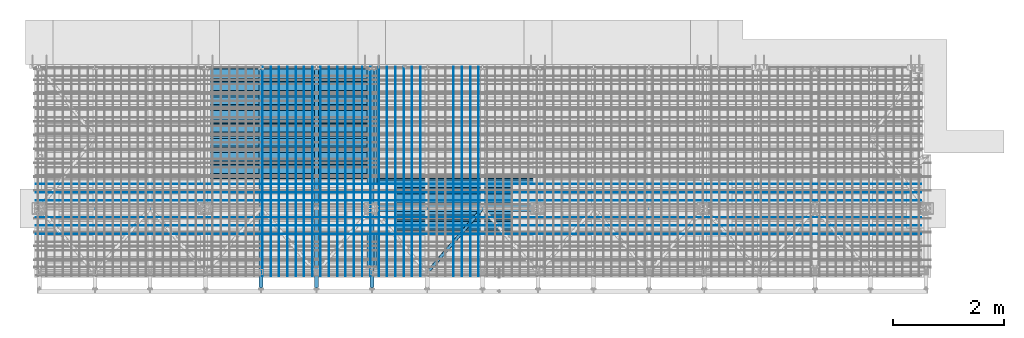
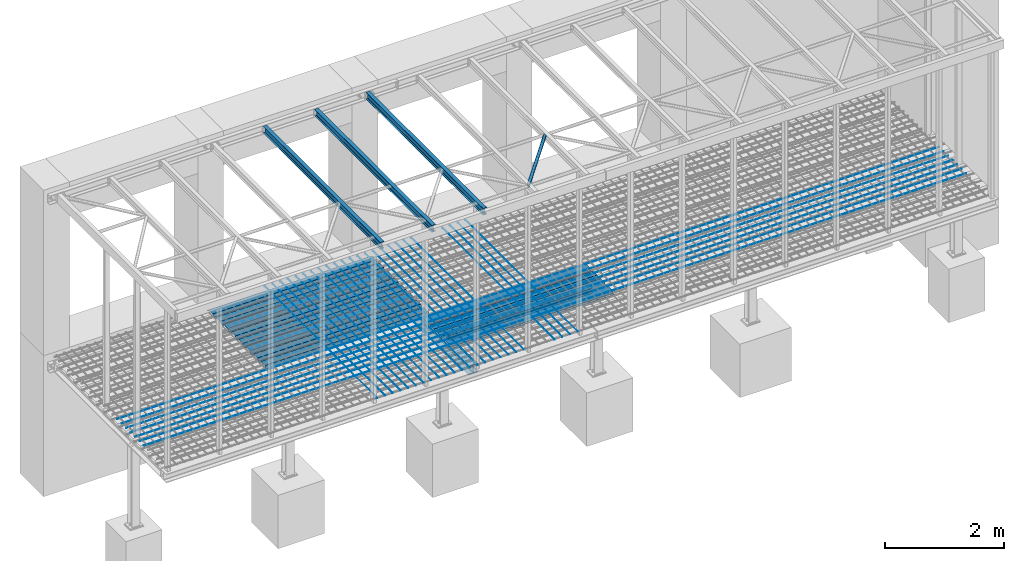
# One storey, part 5 of 26: 40 beams, 40 elements without a shape of their own.
"""IFC2X3 building model written with IfcOpenShell, lengths in millimetres."""

from ifc_helpers import new_model, si_unit, frame, origin_with_axes, origin_2d_with_axis, place, context, subcontext, project, spatial, polyline, circle, hollow_circle, i_section, outline, extrude, boolean, halfspace, material, type_object, element, aggregate, save


model = new_model("IFC2X3")

# Units and contexts
model_context = context("Model", 3, precision=1e-05, world=origin_with_axes())
body_context = subcontext(model_context, "Body", "Model", "MODEL_VIEW")
ifc_project = project(units=[si_unit("LENGTHUNIT", "METRE", prefix="MILLI"), si_unit("AREAUNIT", "SQUARE_METRE"), si_unit("VOLUMEUNIT", "CUBIC_METRE"), si_unit("MASSUNIT", "GRAM", prefix="KILO"), si_unit("TIMEUNIT", "SECOND"), si_unit("PLANEANGLEUNIT", "RADIAN"), si_unit("SOLIDANGLEUNIT", "STERADIAN"), si_unit("THERMODYNAMICTEMPERATUREUNIT", "DEGREE_CELSIUS"), si_unit("LUMINOUSINTENSITYUNIT", "LUMEN")], contexts=[model_context])

# Site, building, storey
site_placement = place(None, origin_with_axes())
site = spatial("IfcSite", under=ifc_project, at=site_placement, Name="Undefined", CompositionType="ELEMENT")
building_placement = place(site_placement, origin_with_axes())
building = spatial("IfcBuilding", under=site, at=building_placement, Name="Undefined", CompositionType="ELEMENT")
storey_placement = place(building_placement, origin_with_axes())
storey = spatial("IfcBuildingStorey", under=building, at=storey_placement, Name="Undefined", CompositionType="ELEMENT", Elevation=0.0)

# Assembly, beam
assembly_1_placement = place(storey_placement, origin_with_axes())
assembly_1 = element("IfcElementAssembly", 1, at=assembly_1_placement, inside=storey, Name="Steel Assembly", AssemblyPlace="NOTDEFINED", PredefinedType="RIGID_FRAME")
ifc_material = material(Name="STEEL/S235JR")
beam_type_1 = type_object("IfcBeamType", Name="D8", PredefinedType="NOTDEFINED")
beam_1_placement = place(assembly_1_placement, frame((7977.5, 3814.99758213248, -49.0), z_axis=(0.0, 0.0, 1.0), x_axis=(0.0, -1.0, 0.0)))
beam_1 = element("IfcBeam", 2, at=beam_1_placement, type_object=beam_type_1, material=ifc_material, Name="VÝSTUZ PLECHODOSKA", ObjectType="D8", context=body_context, shape_type="SweptSolid", body=[
    extrude(circle(Radius=4.0, at=origin_2d_with_axis()), frame((3779.99758213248, 0.0, 0.0), z_axis=(-1.0, 0.0, 0.0), x_axis=(0.0, -1.0, 0.0)), (0.0, 0.0, 1.0), 3780.0),
])
aggregate(assembly_1, [beam_1])

assembly_2_placement = place(storey_placement, origin_with_axes())
assembly_2 = element("IfcElementAssembly", 3, at=assembly_2_placement, inside=storey, Name="Steel Assembly", AssemblyPlace="NOTDEFINED", PredefinedType="RIGID_FRAME")
beam_2_placement = place(assembly_2_placement, frame((7827.5, 3814.99758213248, -49.0), z_axis=(0.0, 0.0, 1.0), x_axis=(0.0, -1.0, 0.0)))
beam_2 = element("IfcBeam", 4, at=beam_2_placement, type_object=beam_type_1, material=ifc_material, Name="VÝSTUZ PLECHODOSKA", ObjectType="D8", context=body_context, shape_type="SweptSolid", body=[
    extrude(circle(Radius=4.0, at=origin_2d_with_axis()), frame((3779.99758213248, 0.0, 0.0), z_axis=(-1.0, 0.0, 0.0), x_axis=(0.0, -1.0, 0.0)), (0.0, 0.0, 1.0), 3780.0),
])
aggregate(assembly_2, [beam_2])

assembly_3_placement = place(storey_placement, origin_with_axes())
assembly_3 = element("IfcElementAssembly", 5, at=assembly_3_placement, inside=storey, Name="Steel Assembly", AssemblyPlace="NOTDEFINED", PredefinedType="RIGID_FRAME")
beam_3_placement = place(assembly_3_placement, frame((7677.5, 3814.99758213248, -49.0), z_axis=(0.0, 0.0, 1.0), x_axis=(0.0, -1.0, 0.0)))
beam_3 = element("IfcBeam", 6, at=beam_3_placement, type_object=beam_type_1, material=ifc_material, Name="VÝSTUZ PLECHODOSKA", ObjectType="D8", context=body_context, shape_type="SweptSolid", body=[
    extrude(circle(Radius=4.0, at=origin_2d_with_axis()), frame((3779.99758213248, 0.0, 0.0), z_axis=(-1.0, 0.0, 0.0), x_axis=(0.0, -1.0, 0.0)), (0.0, 0.0, 1.0), 3780.0),
])
aggregate(assembly_3, [beam_3])

assembly_4_placement = place(storey_placement, origin_with_axes())
assembly_4 = element("IfcElementAssembly", 7, at=assembly_4_placement, inside=storey, Name="Steel Assembly", AssemblyPlace="NOTDEFINED", PredefinedType="RIGID_FRAME")
beam_4_placement = place(assembly_4_placement, frame((7527.5, 3814.99758213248, -49.0), z_axis=(0.0, 0.0, 1.0), x_axis=(0.0, -1.0, 0.0)))
beam_4 = element("IfcBeam", 8, at=beam_4_placement, type_object=beam_type_1, material=ifc_material, Name="VÝSTUZ PLECHODOSKA", ObjectType="D8", context=body_context, shape_type="SweptSolid", body=[
    extrude(circle(Radius=4.0, at=origin_2d_with_axis()), frame((3779.99758213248, 0.0, 0.0), z_axis=(-1.0, 0.0, 0.0), x_axis=(0.0, -1.0, 0.0)), (0.0, 0.0, 1.0), 3780.0),
])
aggregate(assembly_4, [beam_4])

assembly_5_placement = place(storey_placement, origin_with_axes())
assembly_5 = element("IfcElementAssembly", 9, at=assembly_5_placement, inside=storey, Name="Steel Assembly", AssemblyPlace="NOTDEFINED", PredefinedType="RIGID_FRAME")
beam_5_placement = place(assembly_5_placement, frame((6927.5, 3814.99758213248, -49.0), z_axis=(0.0, 0.0, 1.0), x_axis=(0.0, -1.0, 0.0)))
beam_5 = element("IfcBeam", 10, at=beam_5_placement, type_object=beam_type_1, material=ifc_material, Name="VÝSTUZ PLECHODOSKA", ObjectType="D8", context=body_context, shape_type="SweptSolid", body=[
    extrude(circle(Radius=4.0, at=origin_2d_with_axis()), frame((3779.99758213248, 0.0, 0.0), z_axis=(-1.0, 0.0, 0.0), x_axis=(0.0, -1.0, 0.0)), (0.0, 0.0, 1.0), 3780.0),
])
aggregate(assembly_5, [beam_5])

assembly_6_placement = place(storey_placement, origin_with_axes())
assembly_6 = element("IfcElementAssembly", 11, at=assembly_6_placement, inside=storey, Name="Steel Assembly", AssemblyPlace="NOTDEFINED", PredefinedType="RIGID_FRAME")
beam_6_placement = place(assembly_6_placement, frame((6777.5, 3814.99758213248, -49.0), z_axis=(0.0, 0.0, 1.0), x_axis=(0.0, -1.0, 0.0)))
beam_6 = element("IfcBeam", 12, at=beam_6_placement, type_object=beam_type_1, material=ifc_material, Name="VÝSTUZ PLECHODOSKA", ObjectType="D8", context=body_context, shape_type="SweptSolid", body=[
    extrude(circle(Radius=4.0, at=origin_2d_with_axis()), frame((3779.99758213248, 0.0, 0.0), z_axis=(-1.0, 0.0, 0.0), x_axis=(0.0, -1.0, 0.0)), (0.0, 0.0, 1.0), 3780.0),
])
aggregate(assembly_6, [beam_6])

assembly_7_placement = place(storey_placement, origin_with_axes())
assembly_7 = element("IfcElementAssembly", 13, at=assembly_7_placement, inside=storey, Name="Steel Assembly", AssemblyPlace="NOTDEFINED", PredefinedType="RIGID_FRAME")
beam_7_placement = place(assembly_7_placement, frame((6627.5, 3814.99758213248, -49.0), z_axis=(0.0, 0.0, 1.0), x_axis=(0.0, -1.0, 0.0)))
beam_7 = element("IfcBeam", 14, at=beam_7_placement, type_object=beam_type_1, material=ifc_material, Name="VÝSTUZ PLECHODOSKA", ObjectType="D8", context=body_context, shape_type="SweptSolid", body=[
    extrude(circle(Radius=4.0, at=origin_2d_with_axis()), frame((3779.99758213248, 0.0, 0.0), z_axis=(-1.0, 0.0, 0.0), x_axis=(0.0, -1.0, 0.0)), (0.0, 0.0, 1.0), 3780.0),
])
aggregate(assembly_7, [beam_7])

assembly_8_placement = place(storey_placement, origin_with_axes())
assembly_8 = element("IfcElementAssembly", 15, at=assembly_8_placement, inside=storey, Name="Steel Assembly", AssemblyPlace="NOTDEFINED", PredefinedType="RIGID_FRAME")
beam_8_placement = place(assembly_8_placement, frame((6477.5, 3814.99758213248, -49.0), z_axis=(0.0, 0.0, 1.0), x_axis=(0.0, -1.0, 0.0)))
beam_8 = element("IfcBeam", 16, at=beam_8_placement, type_object=beam_type_1, material=ifc_material, Name="VÝSTUZ PLECHODOSKA", ObjectType="D8", context=body_context, shape_type="SweptSolid", body=[
    extrude(circle(Radius=4.0, at=origin_2d_with_axis()), frame((3779.99758213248, 0.0, 0.0), z_axis=(-1.0, 0.0, 0.0), x_axis=(0.0, -1.0, 0.0)), (0.0, 0.0, 1.0), 3780.0),
])
aggregate(assembly_8, [beam_8])

assembly_9_placement = place(storey_placement, origin_with_axes())
assembly_9 = element("IfcElementAssembly", 17, at=assembly_9_placement, inside=storey, Name="Steel Assembly", AssemblyPlace="NOTDEFINED", PredefinedType="RIGID_FRAME")
beam_9_placement = place(assembly_9_placement, frame((6327.5, 3814.99758213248, -49.0), z_axis=(0.0, 0.0, 1.0), x_axis=(0.0, -1.0, 0.0)))
beam_9 = element("IfcBeam", 18, at=beam_9_placement, type_object=beam_type_1, material=ifc_material, Name="VÝSTUZ PLECHODOSKA", ObjectType="D8", context=body_context, shape_type="SweptSolid", body=[
    extrude(circle(Radius=4.0, at=origin_2d_with_axis()), frame((3779.99758213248, 0.0, 0.0), z_axis=(-1.0, 0.0, 0.0), x_axis=(0.0, -1.0, 0.0)), (0.0, 0.0, 1.0), 3780.0),
])
aggregate(assembly_9, [beam_9])

assembly_10_placement = place(storey_placement, origin_with_axes())
assembly_10 = element("IfcElementAssembly", 19, at=assembly_10_placement, inside=storey, Name="Steel Assembly", AssemblyPlace="NOTDEFINED", PredefinedType="RIGID_FRAME")
beam_10_placement = place(assembly_10_placement, frame((6177.5, 3814.99758213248, -49.0), z_axis=(0.0, 0.0, 1.0), x_axis=(0.0, -1.0, 0.0)))
beam_10 = element("IfcBeam", 20, at=beam_10_placement, type_object=beam_type_1, material=ifc_material, Name="VÝSTUZ PLECHODOSKA", ObjectType="D8", context=body_context, shape_type="SweptSolid", body=[
    extrude(circle(Radius=4.0, at=origin_2d_with_axis()), frame((3779.99758213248, 0.0, 0.0), z_axis=(-1.0, 0.0, 0.0), x_axis=(0.0, -1.0, 0.0)), (0.0, 0.0, 1.0), 3780.0),
])
aggregate(assembly_10, [beam_10])

assembly_11_placement = place(storey_placement, origin_with_axes())
assembly_11 = element("IfcElementAssembly", 21, at=assembly_11_placement, inside=storey, Name="Steel Assembly", AssemblyPlace="NOTDEFINED", PredefinedType="RIGID_FRAME")
beam_11_placement = place(assembly_11_placement, frame((6027.5, 3814.99758213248, -49.0), z_axis=(0.0, 0.0, 1.0), x_axis=(0.0, -1.0, 0.0)))
beam_11 = element("IfcBeam", 22, at=beam_11_placement, type_object=beam_type_1, material=ifc_material, Name="VÝSTUZ PLECHODOSKA", ObjectType="D8", context=body_context, shape_type="SweptSolid", body=[
    extrude(circle(Radius=4.0, at=origin_2d_with_axis()), frame((3779.99758213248, 0.0, 0.0), z_axis=(-1.0, 0.0, 0.0), x_axis=(0.0, -1.0, 0.0)), (0.0, 0.0, 1.0), 3780.0),
])
aggregate(assembly_11, [beam_11])

assembly_12_placement = place(storey_placement, origin_with_axes())
assembly_12 = element("IfcElementAssembly", 23, at=assembly_12_placement, inside=storey, Name="Steel Assembly", AssemblyPlace="NOTDEFINED", PredefinedType="RIGID_FRAME")
beam_12_placement = place(assembly_12_placement, frame((5877.5, 3814.99758213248, -49.0), z_axis=(0.0, 0.0, 1.0), x_axis=(0.0, -1.0, 0.0)))
beam_12 = element("IfcBeam", 24, at=beam_12_placement, type_object=beam_type_1, material=ifc_material, Name="VÝSTUZ PLECHODOSKA", ObjectType="D8", context=body_context, shape_type="SweptSolid", body=[
    extrude(circle(Radius=4.0, at=origin_2d_with_axis()), frame((3779.99758213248, 0.0, 0.0), z_axis=(-1.0, 0.0, 0.0), x_axis=(0.0, -1.0, 0.0)), (0.0, 0.0, 1.0), 3780.0),
])
aggregate(assembly_12, [beam_12])

assembly_13_placement = place(storey_placement, origin_with_axes())
assembly_13 = element("IfcElementAssembly", 25, at=assembly_13_placement, inside=storey, Name="Steel Assembly", AssemblyPlace="NOTDEFINED", PredefinedType="RIGID_FRAME")
beam_13_placement = place(assembly_13_placement, frame((5727.5, 3814.99758213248, -49.0), z_axis=(0.0, 0.0, 1.0), x_axis=(0.0, -1.0, 0.0)))
beam_13 = element("IfcBeam", 26, at=beam_13_placement, type_object=beam_type_1, material=ifc_material, Name="VÝSTUZ PLECHODOSKA", ObjectType="D8", context=body_context, shape_type="SweptSolid", body=[
    extrude(circle(Radius=4.0, at=origin_2d_with_axis()), frame((3779.99758213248, 0.0, 0.0), z_axis=(-1.0, 0.0, 0.0), x_axis=(0.0, -1.0, 0.0)), (0.0, 0.0, 1.0), 3780.0),
])
aggregate(assembly_13, [beam_13])

assembly_14_placement = place(storey_placement, origin_with_axes())
assembly_14 = element("IfcElementAssembly", 27, at=assembly_14_placement, inside=storey, Name="Steel Assembly", AssemblyPlace="NOTDEFINED", PredefinedType="RIGID_FRAME")
beam_14_placement = place(assembly_14_placement, frame((5577.5, 3814.99758213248, -49.0), z_axis=(0.0, 0.0, 1.0), x_axis=(0.0, -1.0, 0.0)))
beam_14 = element("IfcBeam", 28, at=beam_14_placement, type_object=beam_type_1, material=ifc_material, Name="VÝSTUZ PLECHODOSKA", ObjectType="D8", context=body_context, shape_type="SweptSolid", body=[
    extrude(circle(Radius=4.0, at=origin_2d_with_axis()), frame((3779.99758213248, 0.0, 0.0), z_axis=(-1.0, 0.0, 0.0), x_axis=(0.0, -1.0, 0.0)), (0.0, 0.0, 1.0), 3780.0),
])
aggregate(assembly_14, [beam_14])

assembly_15_placement = place(storey_placement, origin_with_axes())
assembly_15 = element("IfcElementAssembly", 29, at=assembly_15_placement, inside=storey, Name="Steel Assembly", AssemblyPlace="NOTDEFINED", PredefinedType="RIGID_FRAME")
beam_15_placement = place(assembly_15_placement, frame((5427.5, 3814.99758213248, -49.0), z_axis=(0.0, 0.0, 1.0), x_axis=(0.0, -1.0, 0.0)))
beam_15 = element("IfcBeam", 30, at=beam_15_placement, type_object=beam_type_1, material=ifc_material, Name="VÝSTUZ PLECHODOSKA", ObjectType="D8", context=body_context, shape_type="SweptSolid", body=[
    extrude(circle(Radius=4.0, at=origin_2d_with_axis()), frame((3779.99758213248, 0.0, 0.0), z_axis=(-1.0, 0.0, 0.0), x_axis=(0.0, -1.0, 0.0)), (0.0, 0.0, 1.0), 3780.0),
])
aggregate(assembly_15, [beam_15])

assembly_16_placement = place(storey_placement, origin_with_axes())
assembly_16 = element("IfcElementAssembly", 31, at=assembly_16_placement, inside=storey, Name="Steel Assembly", AssemblyPlace="NOTDEFINED", PredefinedType="RIGID_FRAME")
beam_16_placement = place(assembly_16_placement, frame((5277.5, 3814.99758213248, -49.0), z_axis=(0.0, 0.0, 1.0), x_axis=(0.0, -1.0, 0.0)))
beam_16 = element("IfcBeam", 32, at=beam_16_placement, type_object=beam_type_1, material=ifc_material, Name="VÝSTUZ PLECHODOSKA", ObjectType="D8", context=body_context, shape_type="SweptSolid", body=[
    extrude(circle(Radius=4.0, at=origin_2d_with_axis()), frame((3779.99758213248, 0.0, 0.0), z_axis=(-1.0, 0.0, 0.0), x_axis=(0.0, -1.0, 0.0)), (0.0, 0.0, 1.0), 3780.0),
])
aggregate(assembly_16, [beam_16])

assembly_17_placement = place(storey_placement, origin_with_axes())
assembly_17 = element("IfcElementAssembly", 33, at=assembly_17_placement, inside=storey, Name="Steel Assembly", AssemblyPlace="NOTDEFINED", PredefinedType="RIGID_FRAME")
beam_17_placement = place(assembly_17_placement, frame((5127.5, 3814.99758213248, -49.0), z_axis=(0.0, 0.0, 1.0), x_axis=(0.0, -1.0, 0.0)))
beam_17 = element("IfcBeam", 34, at=beam_17_placement, type_object=beam_type_1, material=ifc_material, Name="VÝSTUZ PLECHODOSKA", ObjectType="D8", context=body_context, shape_type="SweptSolid", body=[
    extrude(circle(Radius=4.0, at=origin_2d_with_axis()), frame((3779.99758213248, 0.0, 0.0), z_axis=(-1.0, 0.0, 0.0), x_axis=(0.0, -1.0, 0.0)), (0.0, 0.0, 1.0), 3780.0),
])
aggregate(assembly_17, [beam_17])

assembly_18_placement = place(storey_placement, origin_with_axes())
assembly_18 = element("IfcElementAssembly", 35, at=assembly_18_placement, inside=storey, Name="Steel Assembly", AssemblyPlace="NOTDEFINED", PredefinedType="RIGID_FRAME")
beam_18_placement = place(assembly_18_placement, frame((4977.5, 3814.99758213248, -49.0), z_axis=(0.0, 0.0, 1.0), x_axis=(0.0, -1.0, 0.0)))
beam_18 = element("IfcBeam", 36, at=beam_18_placement, type_object=beam_type_1, material=ifc_material, Name="VÝSTUZ PLECHODOSKA", ObjectType="D8", context=body_context, shape_type="SweptSolid", body=[
    extrude(circle(Radius=4.0, at=origin_2d_with_axis()), frame((3779.99758213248, 0.0, 0.0), z_axis=(-1.0, 0.0, 0.0), x_axis=(0.0, -1.0, 0.0)), (0.0, 0.0, 1.0), 3780.0),
])
aggregate(assembly_18, [beam_18])

assembly_19_placement = place(storey_placement, origin_with_axes())
assembly_19 = element("IfcElementAssembly", 37, at=assembly_19_placement, inside=storey, Name="Steel Assembly", AssemblyPlace="NOTDEFINED", PredefinedType="RIGID_FRAME")
beam_19_placement = place(assembly_19_placement, frame((4827.5, 3814.99758213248, -49.0), z_axis=(0.0, 0.0, 1.0), x_axis=(0.0, -1.0, 0.0)))
beam_19 = element("IfcBeam", 38, at=beam_19_placement, type_object=beam_type_1, material=ifc_material, Name="VÝSTUZ PLECHODOSKA", ObjectType="D8", context=body_context, shape_type="SweptSolid", body=[
    extrude(circle(Radius=4.0, at=origin_2d_with_axis()), frame((3779.99758213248, 0.0, 0.0), z_axis=(-1.0, 0.0, 0.0), x_axis=(0.0, -1.0, 0.0)), (0.0, 0.0, 1.0), 3780.0),
])
aggregate(assembly_19, [beam_19])

assembly_20_placement = place(storey_placement, origin_with_axes())
assembly_20 = element("IfcElementAssembly", 39, at=assembly_20_placement, inside=storey, Name="Steel Assembly", AssemblyPlace="NOTDEFINED", PredefinedType="RIGID_FRAME")
beam_20_placement = place(assembly_20_placement, frame((4677.5, 3814.99758213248, -49.0), z_axis=(0.0, 0.0, 1.0), x_axis=(0.0, -1.0, 0.0)))
beam_20 = element("IfcBeam", 40, at=beam_20_placement, type_object=beam_type_1, material=ifc_material, Name="VÝSTUZ PLECHODOSKA", ObjectType="D8", context=body_context, shape_type="SweptSolid", body=[
    extrude(circle(Radius=4.0, at=origin_2d_with_axis()), frame((3779.99758213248, 0.0, 0.0), z_axis=(-1.0, 0.0, 0.0), x_axis=(0.0, -1.0, 0.0)), (0.0, 0.0, 1.0), 3780.0),
])
aggregate(assembly_20, [beam_20])

assembly_21_placement = place(storey_placement, origin_with_axes())
assembly_21 = element("IfcElementAssembly", 41, at=assembly_21_placement, inside=storey, Name="Steel Assembly", AssemblyPlace="NOTDEFINED", PredefinedType="RIGID_FRAME")
beam_21_placement = place(assembly_21_placement, frame((4527.5, 3814.99758213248, -49.0), z_axis=(0.0, 0.0, 1.0), x_axis=(0.0, -1.0, 0.0)))
beam_21 = element("IfcBeam", 42, at=beam_21_placement, type_object=beam_type_1, material=ifc_material, Name="VÝSTUZ PLECHODOSKA", ObjectType="D8", context=body_context, shape_type="SweptSolid", body=[
    extrude(circle(Radius=4.0, at=origin_2d_with_axis()), frame((3779.99758213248, 0.0, 0.0), z_axis=(-1.0, 0.0, 0.0), x_axis=(0.0, -1.0, 0.0)), (0.0, 0.0, 1.0), 3780.0),
])
aggregate(assembly_21, [beam_21])

assembly_22_placement = place(storey_placement, origin_with_axes())
assembly_22 = element("IfcElementAssembly", 43, at=assembly_22_placement, inside=storey, Name="Steel Assembly", AssemblyPlace="NOTDEFINED", PredefinedType="RIGID_FRAME")
beam_22_placement = place(assembly_22_placement, frame((4377.5, 3814.99758213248, -49.0), z_axis=(0.0, 0.0, 1.0), x_axis=(0.0, -1.0, 0.0)))
beam_22 = element("IfcBeam", 44, at=beam_22_placement, type_object=beam_type_1, material=ifc_material, Name="VÝSTUZ PLECHODOSKA", ObjectType="D8", context=body_context, shape_type="SweptSolid", body=[
    extrude(circle(Radius=4.0, at=origin_2d_with_axis()), frame((3779.99758213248, 0.0, 0.0), z_axis=(-1.0, 0.0, 0.0), x_axis=(0.0, -1.0, 0.0)), (0.0, 0.0, 1.0), 3780.0),
])
aggregate(assembly_22, [beam_22])

assembly_23_placement = place(storey_placement, origin_with_axes())
assembly_23 = element("IfcElementAssembly", 45, at=assembly_23_placement, inside=storey, Name="Steel Assembly", AssemblyPlace="NOTDEFINED", PredefinedType="RIGID_FRAME")
beam_23_placement = place(assembly_23_placement, frame((4227.5, 3814.99758213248, -49.0), z_axis=(0.0, 0.0, 1.0), x_axis=(0.0, -1.0, 0.0)))
beam_23 = element("IfcBeam", 46, at=beam_23_placement, type_object=beam_type_1, material=ifc_material, Name="VÝSTUZ PLECHODOSKA", ObjectType="D8", context=body_context, shape_type="SweptSolid", body=[
    extrude(circle(Radius=4.0, at=origin_2d_with_axis()), frame((3779.99758213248, 0.0, 0.0), z_axis=(-1.0, 0.0, 0.0), x_axis=(0.0, -1.0, 0.0)), (0.0, 0.0, 1.0), 3780.0),
])
aggregate(assembly_23, [beam_23])

assembly_24_placement = place(storey_placement, origin_with_axes())
assembly_24 = element("IfcElementAssembly", 47, at=assembly_24_placement, inside=storey, Name="Steel Assembly", AssemblyPlace="NOTDEFINED", PredefinedType="RIGID_FRAME")
beam_24_placement = place(assembly_24_placement, frame((4077.5, 3814.99758213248, -49.0), z_axis=(0.0, 0.0, 1.0), x_axis=(0.0, -1.0, 0.0)))
beam_24 = element("IfcBeam", 48, at=beam_24_placement, type_object=beam_type_1, material=ifc_material, Name="VÝSTUZ PLECHODOSKA", ObjectType="D8", context=body_context, shape_type="SweptSolid", body=[
    extrude(circle(Radius=4.0, at=origin_2d_with_axis()), frame((3779.99758213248, 0.0, 0.0), z_axis=(-1.0, 0.0, 0.0), x_axis=(0.0, -1.0, 0.0)), (0.0, 0.0, 1.0), 3780.0),
])
aggregate(assembly_24, [beam_24])

assembly_25_placement = place(storey_placement, origin_with_axes())
assembly_25 = element("IfcElementAssembly", 49, at=assembly_25_placement, inside=storey, Name="Steel Assembly", AssemblyPlace="NOTDEFINED", PredefinedType="RIGID_FRAME")
beam_25_placement = place(assembly_25_placement, frame((-15.0, 799.997582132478, -57.0), z_axis=(0.0, 0.0, 1.0), x_axis=(1.0, 0.0, 0.0)))
beam_25 = element("IfcBeam", 50, at=beam_25_placement, type_object=beam_type_1, material=ifc_material, Name="VÝSTUZ PLECHODOSKA", ObjectType="D8", context=body_context, shape_type="SweptSolid", body=[
    extrude(circle(Radius=4.0, at=origin_2d_with_axis()), frame((15985.0, 0.0, 0.0), z_axis=(-1.0, 0.0, 0.0), x_axis=(0.0, -1.0, 0.0)), (0.0, 0.0, 1.0), 15985.0),
])
aggregate(assembly_25, [beam_25])

assembly_26_placement = place(storey_placement, origin_with_axes())
assembly_26 = element("IfcElementAssembly", 51, at=assembly_26_placement, inside=storey, Name="Steel Assembly", AssemblyPlace="NOTDEFINED", PredefinedType="RIGID_FRAME")
beam_26_placement = place(assembly_26_placement, frame((-15.0, 949.997582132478, -57.0), z_axis=(0.0, 0.0, 1.0), x_axis=(1.0, 0.0, 0.0)))
beam_26 = element("IfcBeam", 52, at=beam_26_placement, type_object=beam_type_1, material=ifc_material, Name="VÝSTUZ PLECHODOSKA", ObjectType="D8", context=body_context, shape_type="SweptSolid", body=[
    extrude(circle(Radius=4.0, at=origin_2d_with_axis()), frame((15985.0, 0.0, 0.0), z_axis=(-1.0, 0.0, 0.0), x_axis=(0.0, -1.0, 0.0)), (0.0, 0.0, 1.0), 15985.0),
])
aggregate(assembly_26, [beam_26])

assembly_27_placement = place(storey_placement, origin_with_axes())
assembly_27 = element("IfcElementAssembly", 53, at=assembly_27_placement, inside=storey, Name="Steel Assembly", AssemblyPlace="NOTDEFINED", PredefinedType="RIGID_FRAME")
beam_27_placement = place(assembly_27_placement, frame((-15.0, 1099.99758213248, -57.0), z_axis=(0.0, 0.0, 1.0), x_axis=(1.0, 0.0, 0.0)))
beam_27 = element("IfcBeam", 54, at=beam_27_placement, type_object=beam_type_1, material=ifc_material, Name="VÝSTUZ PLECHODOSKA", ObjectType="D8", context=body_context, shape_type="SweptSolid", body=[
    extrude(circle(Radius=4.0, at=origin_2d_with_axis()), frame((15985.0, 0.0, 0.0), z_axis=(-1.0, 0.0, 0.0), x_axis=(0.0, -1.0, 0.0)), (0.0, 0.0, 1.0), 15985.0),
])
aggregate(assembly_27, [beam_27])

assembly_28_placement = place(storey_placement, origin_with_axes())
assembly_28 = element("IfcElementAssembly", 55, at=assembly_28_placement, inside=storey, Name="Steel Assembly", AssemblyPlace="NOTDEFINED", PredefinedType="RIGID_FRAME")
beam_28_placement = place(assembly_28_placement, frame((-15.0, 1249.99758213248, -57.0), z_axis=(0.0, 0.0, 1.0), x_axis=(1.0, 0.0, 0.0)))
beam_28 = element("IfcBeam", 56, at=beam_28_placement, type_object=beam_type_1, material=ifc_material, Name="VÝSTUZ PLECHODOSKA", ObjectType="D8", context=body_context, shape_type="SweptSolid", body=[
    extrude(circle(Radius=4.0, at=origin_2d_with_axis()), frame((15985.0, 0.0, 0.0), z_axis=(-1.0, 0.0, 0.0), x_axis=(0.0, -1.0, 0.0)), (0.0, 0.0, 1.0), 15985.0),
])
aggregate(assembly_28, [beam_28])

assembly_29_placement = place(storey_placement, origin_with_axes())
assembly_29 = element("IfcElementAssembly", 57, at=assembly_29_placement, inside=storey, Name="Steel Assembly", AssemblyPlace="NOTDEFINED", PredefinedType="RIGID_FRAME")
beam_29_placement = place(assembly_29_placement, frame((-15.0, 1399.99758213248, -57.0), z_axis=(0.0, 0.0, 1.0), x_axis=(1.0, 0.0, 0.0)))
beam_29 = element("IfcBeam", 58, at=beam_29_placement, type_object=beam_type_1, material=ifc_material, Name="VÝSTUZ PLECHODOSKA", ObjectType="D8", context=body_context, shape_type="SweptSolid", body=[
    extrude(circle(Radius=4.0, at=origin_2d_with_axis()), frame((15985.0, 0.0, 0.0), z_axis=(-1.0, 0.0, 0.0), x_axis=(0.0, -1.0, 0.0)), (0.0, 0.0, 1.0), 15985.0),
])
aggregate(assembly_29, [beam_29])

assembly_30_placement = place(storey_placement, origin_with_axes())
assembly_30 = element("IfcElementAssembly", 59, at=assembly_30_placement, inside=storey, Name="Steel Assembly", AssemblyPlace="NOTDEFINED", PredefinedType="RIGID_FRAME")
beam_30_placement = place(assembly_30_placement, frame((-15.0, 1549.99758213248, -57.0), z_axis=(0.0, 0.0, 1.0), x_axis=(1.0, 0.0, 0.0)))
beam_30 = element("IfcBeam", 60, at=beam_30_placement, type_object=beam_type_1, material=ifc_material, Name="VÝSTUZ PLECHODOSKA", ObjectType="D8", context=body_context, shape_type="SweptSolid", body=[
    extrude(circle(Radius=4.0, at=origin_2d_with_axis()), frame((15985.0, 0.0, 0.0), z_axis=(-1.0, 0.0, 0.0), x_axis=(0.0, -1.0, 0.0)), (0.0, 0.0, 1.0), 15985.0),
])
aggregate(assembly_30, [beam_30])

assembly_31_placement = place(storey_placement, origin_with_axes())
assembly_31 = element("IfcElementAssembly", 61, at=assembly_31_placement, inside=storey, Name="Steel Assembly", AssemblyPlace="NOTDEFINED", PredefinedType="RIGID_FRAME")
beam_31_placement = place(assembly_31_placement, frame((-15.0, 1699.99758213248, -57.0), z_axis=(0.0, 0.0, 1.0), x_axis=(1.0, 0.0, 0.0)))
beam_31 = element("IfcBeam", 62, at=beam_31_placement, type_object=beam_type_1, material=ifc_material, Name="VÝSTUZ PLECHODOSKA", ObjectType="D8", context=body_context, shape_type="SweptSolid", body=[
    extrude(circle(Radius=4.0, at=origin_2d_with_axis()), frame((15985.0, 0.0, 0.0), z_axis=(-1.0, 0.0, 0.0), x_axis=(0.0, -1.0, 0.0)), (0.0, 0.0, 1.0), 15985.0),
])
aggregate(assembly_31, [beam_31])

assembly_32_placement = place(storey_placement, origin_with_axes())
assembly_32 = element("IfcElementAssembly", 63, at=assembly_32_placement, inside=storey, Name="Steel Assembly", AssemblyPlace="NOTDEFINED", PredefinedType="RIGID_FRAME")
beam_type_2 = type_object("IfcBeamType", Name="TR50/250", PredefinedType="NOTDEFINED")
beam_32_placement = place(assembly_32_placement, frame((5960.0, 1315.04756992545, -135.38), z_axis=(0.0, 0.0, 1.0), x_axis=(1.0, 0.0, 0.0)))
beam_32 = element("IfcBeam", 64, at=beam_32_placement, type_object=beam_type_2, material=ifc_material, Name="Trapézový plech", ObjectType="TR50/250", context=body_context, shape_type="SweptSolid", body=[
    extrude(outline(polyline([(-487.739990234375, -24.6299991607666), (-524.950012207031, -24.6200008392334), (-524.950012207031, -23.8700008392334), (-488.149993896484, -23.8700008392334), (-457.649993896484, 24.6299991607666), (-322.239990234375, 24.6299991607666), (-291.739990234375, -23.8700008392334), (-238.149993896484, -23.8700008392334), (-207.649993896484, 24.6299991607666), (-72.2399978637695, 24.6299991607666), (-41.7400016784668, -23.8700008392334), (11.8500003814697, -23.8700008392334), (42.3499984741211, 24.6299991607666), (177.759994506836, 24.6299991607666), (208.259994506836, -23.8700008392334), (261.850006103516, -23.8700008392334), (292.350006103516, 24.6299991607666), (427.760009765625, 24.6299991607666), (458.260009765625, -23.8700008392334), (511.850006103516, -23.8700008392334), (524.309997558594, -4.05000019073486), (524.950012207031, -4.44999980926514), (512.260009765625, -24.6200008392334), (457.850006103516, -24.6200008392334), (427.350006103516, 23.8799991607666), (292.760009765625, 23.8799991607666), (262.260009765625, -24.6200008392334), (207.850006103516, -24.6200008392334), (177.350006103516, 23.8799991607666), (42.7599983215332, 23.8799991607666), (12.2600002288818, -24.6200008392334), (-42.1500015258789, -24.6200008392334), (-72.6500015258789, 23.8799991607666), (-207.240005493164, 23.8799991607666), (-237.740005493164, -24.6200008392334), (-292.149993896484, -24.6200008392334), (-322.649993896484, 23.8799991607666), (-457.239990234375, 23.8799991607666), (-487.739990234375, -24.6299991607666)])), frame((3180.0, 0.0, 0.0), z_axis=(-1.0, 0.0, 0.0), x_axis=(0.0, -1.0, 0.0)), (0.0, 0.0, 1.0), 3180.0),
])
aggregate(assembly_32, [beam_32])

assembly_33_placement = place(storey_placement, origin_with_axes())
assembly_33 = element("IfcElementAssembly", 65, at=assembly_33_placement, inside=storey, Name="Steel Assembly", AssemblyPlace="NOTDEFINED", PredefinedType="RIGID_FRAME")
beam_33_placement = place(assembly_33_placement, frame((2960.0, 2315.04756992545, -135.38), z_axis=(0.0, 0.0, 1.0), x_axis=(1.0, 0.0, 0.0)))
beam_33 = element("IfcBeam", 66, at=beam_33_placement, type_object=beam_type_2, material=ifc_material, Name="Trapézový plech", ObjectType="TR50/250", context=body_context, shape_type="SweptSolid", body=[
    extrude(outline(polyline([(-487.739990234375, -24.6299991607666), (-524.950012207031, -24.6200008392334), (-524.950012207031, -23.8700008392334), (-488.149993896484, -23.8700008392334), (-457.649993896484, 24.6299991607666), (-322.239990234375, 24.6299991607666), (-291.739990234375, -23.8700008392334), (-238.149993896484, -23.8700008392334), (-207.649993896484, 24.6299991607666), (-72.2399978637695, 24.6299991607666), (-41.7400016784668, -23.8700008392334), (11.8500003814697, -23.8700008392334), (42.3499984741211, 24.6299991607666), (177.759994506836, 24.6299991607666), (208.259994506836, -23.8700008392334), (261.850006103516, -23.8700008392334), (292.350006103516, 24.6299991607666), (427.760009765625, 24.6299991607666), (458.260009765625, -23.8700008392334), (511.850006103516, -23.8700008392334), (524.309997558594, -4.05000019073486), (524.950012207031, -4.44999980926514), (512.260009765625, -24.6200008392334), (457.850006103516, -24.6200008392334), (427.350006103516, 23.8799991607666), (292.760009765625, 23.8799991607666), (262.260009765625, -24.6200008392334), (207.850006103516, -24.6200008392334), (177.350006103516, 23.8799991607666), (42.7599983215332, 23.8799991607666), (12.2600002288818, -24.6200008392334), (-42.1500015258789, -24.6200008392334), (-72.6500015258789, 23.8799991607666), (-207.240005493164, 23.8799991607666), (-237.740005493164, -24.6200008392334), (-292.149993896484, -24.6200008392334), (-322.649993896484, 23.8799991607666), (-457.239990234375, 23.8799991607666), (-487.739990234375, -24.6299991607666)])), frame((3180.0, 0.0, 0.0), z_axis=(-1.0, 0.0, 0.0), x_axis=(0.0, -1.0, 0.0)), (0.0, 0.0, 1.0), 3180.0),
])
aggregate(assembly_33, [beam_33])

assembly_34_placement = place(storey_placement, origin_with_axes())
assembly_34 = element("IfcElementAssembly", 67, at=assembly_34_placement, inside=storey, Name="Steel Assembly", AssemblyPlace="NOTDEFINED", PredefinedType="RIGID_FRAME")
beam_34_placement = place(assembly_34_placement, frame((2960.0, 3315.04756992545, -135.38), z_axis=(0.0, 0.0, 1.0), x_axis=(1.0, 0.0, 0.0)))
beam_34 = element("IfcBeam", 68, at=beam_34_placement, type_object=beam_type_2, material=ifc_material, Name="Trapézový plech", ObjectType="TR50/250", context=body_context, shape_type="SweptSolid", body=[
    extrude(outline(polyline([(-487.739990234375, -24.6299991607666), (-524.950012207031, -24.6200008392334), (-524.950012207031, -23.8700008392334), (-488.149993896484, -23.8700008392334), (-457.649993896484, 24.6299991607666), (-322.239990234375, 24.6299991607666), (-291.739990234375, -23.8700008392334), (-238.149993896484, -23.8700008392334), (-207.649993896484, 24.6299991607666), (-72.2399978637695, 24.6299991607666), (-41.7400016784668, -23.8700008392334), (11.8500003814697, -23.8700008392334), (42.3499984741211, 24.6299991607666), (177.759994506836, 24.6299991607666), (208.259994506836, -23.8700008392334), (261.850006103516, -23.8700008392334), (292.350006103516, 24.6299991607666), (427.760009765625, 24.6299991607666), (458.260009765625, -23.8700008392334), (511.850006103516, -23.8700008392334), (524.309997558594, -4.05000019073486), (524.950012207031, -4.44999980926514), (512.260009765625, -24.6200008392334), (457.850006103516, -24.6200008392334), (427.350006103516, 23.8799991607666), (292.760009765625, 23.8799991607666), (262.260009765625, -24.6200008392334), (207.850006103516, -24.6200008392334), (177.350006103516, 23.8799991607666), (42.7599983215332, 23.8799991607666), (12.2600002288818, -24.6200008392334), (-42.1500015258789, -24.6200008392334), (-72.6500015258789, 23.8799991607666), (-207.240005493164, 23.8799991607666), (-237.740005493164, -24.6200008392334), (-292.149993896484, -24.6200008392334), (-322.649993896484, 23.8799991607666), (-457.239990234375, 23.8799991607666), (-487.739990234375, -24.6299991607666)])), frame((3180.0, 0.0, 0.0), z_axis=(-1.0, 0.0, 0.0), x_axis=(0.0, -1.0, 0.0)), (0.0, 0.0, 1.0), 3180.0),
])
aggregate(assembly_34, [beam_34])

assembly_35_placement = place(storey_placement, origin_with_axes())
assembly_35 = element("IfcElementAssembly", 69, at=assembly_35_placement, inside=storey, Name="Steel Assembly", AssemblyPlace="NOTDEFINED", PredefinedType="RIGID_FRAME")
beam_type_3 = type_object("IfcBeamType", Name="HEB180", PredefinedType="NOTDEFINED")
beam_35_placement = place(assembly_35_placement, frame((6050.0, 3767.0, -250.0), z_axis=(0.0, 0.0, 1.0), x_axis=(0.0, -1.0, 0.0)))
beam_35 = element("IfcBeam", 70, at=beam_35_placement, type_object=beam_type_3, material=ifc_material, Name="NOSNÍK", ObjectType="HEB180", context=body_context, shape_type="SweptSolid", body=[
    extrude(i_section(OverallWidth=180.0, OverallDepth=180.0, WebThickness=8.5, FlangeThickness=14.0, FilletRadius=15.0, at=origin_2d_with_axis()), frame((3557.0, 0.0, 0.0), z_axis=(-1.0, 0.0, 0.0), x_axis=(0.0, -1.0, 0.0)), (0.0, 0.0, 1.0), 3557.0),
])
aggregate(assembly_35, [beam_35])

assembly_36_placement = place(storey_placement, origin_with_axes())
assembly_36 = element("IfcElementAssembly", 71, at=assembly_36_placement, inside=storey, Name="Steel Assembly", AssemblyPlace="NOTDEFINED", PredefinedType="RIGID_FRAME")
beam_type_4 = type_object("IfcBeamType", Name="HEA120", PredefinedType="NOTDEFINED")
beam_36_placement = place(assembly_36_placement, frame((6160.0, 1260.0, -250.0), z_axis=(0.0, 0.0, -1.0), x_axis=(1.0, 0.0, 0.0)))
beam_36 = element("IfcBeam", 72, at=beam_36_placement, type_object=beam_type_4, material=ifc_material, Name="NOSNÍK", ObjectType="HEA120", context=body_context, shape_type="SweptSolid", body=[
    extrude(i_section(OverallWidth=120.0, OverallDepth=114.0, WebThickness=5.0, FlangeThickness=8.0, FilletRadius=12.0, at=origin_2d_with_axis()), frame((2780.0, 0.0, 0.0), z_axis=(-1.0, 0.0, 0.0), x_axis=(0.0, -1.0, 0.0)), (0.0, 0.0, 1.0), 2780.0),
])
aggregate(assembly_36, [beam_36])

assembly_37_placement = place(storey_placement, origin_with_axes())
assembly_37 = element("IfcElementAssembly", 73, at=assembly_37_placement, inside=storey, Name="Steel Assembly", AssemblyPlace="NOTDEFINED", PredefinedType="RIGID_FRAME")
beam_type_5 = type_object("IfcBeamType", Name="CHS60.3*5", PredefinedType="NOTDEFINED")
beam_37_placement = place(assembly_37_placement, frame((7050.0, 100.0, 3230.0), z_axis=(0.0, 0.0, -1.0), x_axis=(0.652939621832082, 0.757409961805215, 0.0)))
beam_37 = element("IfcBeam", 74, at=beam_37_placement, type_object=beam_type_5, material=ifc_material, Name="NOSNÍK", ObjectType="CHS60.3*5", context=body_context, shape_type="CSG", body=[
    boolean("DIFFERENCE", boolean("DIFFERENCE", boolean("DIFFERENCE", boolean("DIFFERENCE", extrude(hollow_circle(Radius=30.15, WallThickness=5.0, at=origin_2d_with_axis()), frame((1531.53517752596, -1.81898940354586e-12, 0.0), z_axis=(-1.0, 0.0, 0.0), x_axis=(0.0, -1.0, 0.0)), (0.0, 0.0, 1.0), 1531.5), extrude(hollow_circle(Radius=30.15, WallThickness=5.0, at=origin_2d_with_axis()), frame((1530.00076941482, -1.77991293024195, 0.0), z_axis=(-0.652939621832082, -0.757409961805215, 0.0), x_axis=(0.757409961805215, -0.652939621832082, 0.0)), (0.0, 0.0, 1.0), 995.3)), extrude(hollow_circle(Radius=30.15, WallThickness=5.0, at=origin_2d_with_axis()), frame((651.405213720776, 755.630048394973, 0.0), z_axis=(-0.652939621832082, -0.757409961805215, 0.0), x_axis=(0.757409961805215, -0.652939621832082, 0.0)), (0.0, 0.0, 1.0), 995.3)), halfspace(frame((1562.9100704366, -30.1499999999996, -30.1500000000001), z_axis=(0.652939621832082, 0.757409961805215, 0.0), x_axis=(0.0, 0.0, 1.0)), False)), halfspace(frame((-31.3748924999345, 30.1499999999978, -30.1500000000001), z_axis=(-0.652939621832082, -0.757409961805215, 0.0), x_axis=(0.0, 0.0, 1.0)), False)),
])
aggregate(assembly_37, [beam_37])

assembly_38_placement = place(storey_placement, origin_with_axes())
assembly_38 = element("IfcElementAssembly", 75, at=assembly_38_placement, inside=storey, Name="Steel Assembly", AssemblyPlace="NOTDEFINED", PredefinedType="RIGID_FRAME")
beam_type_6 = type_object("IfcBeamType", Name="IPE140", PredefinedType="NOTDEFINED")
beam_38_placement = place(assembly_38_placement, frame((4050.0, -180.0, 3230.0), z_axis=(0.0, 0.0, 1.0), x_axis=(0.0, 1.0, 0.0)))
beam_38 = element("IfcBeam", 76, at=beam_38_placement, type_object=beam_type_6, material=ifc_material, Name="NOSNÍK", ObjectType="IPE140", context=body_context, shape_type="SweptSolid", body=[
    extrude(i_section(OverallWidth=73.0, OverallDepth=140.0, WebThickness=4.699999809, FlangeThickness=6.900000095, FilletRadius=7.0, at=origin_2d_with_axis()), frame((3947.0, 0.0, 0.0), z_axis=(-1.0, 0.0, 0.0), x_axis=(0.0, -1.0, 0.0)), (0.0, 0.0, 1.0), 3947.0),
])
aggregate(assembly_38, [beam_38])

assembly_39_placement = place(storey_placement, origin_with_axes())
assembly_39 = element("IfcElementAssembly", 77, at=assembly_39_placement, inside=storey, Name="Steel Assembly", AssemblyPlace="NOTDEFINED", PredefinedType="RIGID_FRAME")
beam_39_placement = place(assembly_39_placement, frame((5050.0, -180.0, 3230.0), z_axis=(0.0, 0.0, 1.0), x_axis=(0.0, 1.0, 0.0)))
beam_39 = element("IfcBeam", 78, at=beam_39_placement, type_object=beam_type_6, material=ifc_material, Name="NOSNÍK", ObjectType="IPE140", context=body_context, shape_type="SweptSolid", body=[
    extrude(i_section(OverallWidth=73.0, OverallDepth=140.0, WebThickness=4.699999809, FlangeThickness=6.900000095, FilletRadius=7.0, at=origin_2d_with_axis()), frame((3947.0, 0.0, 0.0), z_axis=(-1.0, 0.0, 0.0), x_axis=(0.0, -1.0, 0.0)), (0.0, 0.0, 1.0), 3947.0),
])
aggregate(assembly_39, [beam_39])

assembly_40_placement = place(storey_placement, origin_with_axes())
assembly_40 = element("IfcElementAssembly", 79, at=assembly_40_placement, inside=storey, Name="Steel Assembly", AssemblyPlace="NOTDEFINED", PredefinedType="RIGID_FRAME")
beam_40_placement = place(assembly_40_placement, frame((6050.0, -180.0, 3230.0), z_axis=(0.0, 0.0, 1.0), x_axis=(0.0, 1.0, 0.0)))
beam_40 = element("IfcBeam", 80, at=beam_40_placement, type_object=beam_type_6, material=ifc_material, Name="NOSNÍK", ObjectType="IPE140", context=body_context, shape_type="SweptSolid", body=[
    extrude(i_section(OverallWidth=73.0, OverallDepth=140.0, WebThickness=4.699999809, FlangeThickness=6.900000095, FilletRadius=7.0, at=origin_2d_with_axis()), frame((3947.0, 0.0, 0.0), z_axis=(-1.0, 0.0, 0.0), x_axis=(0.0, -1.0, 0.0)), (0.0, 0.0, 1.0), 3947.0),
])
aggregate(assembly_40, [beam_40])

save(model, "model.ifc")
